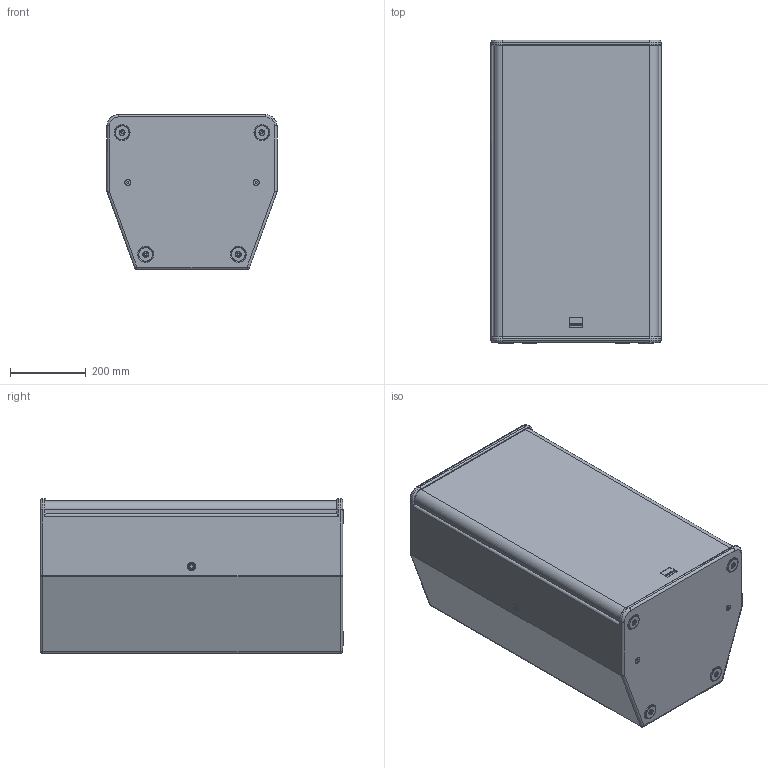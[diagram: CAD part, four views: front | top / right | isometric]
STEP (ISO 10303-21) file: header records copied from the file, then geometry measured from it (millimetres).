
FILE_DESCRIPTION (( 'STEP AP203' ), '1' );
FILE_NAME ('Seeburg_F8.STEP', '2012-10-15T12:45:47', ( 'Fabian' ), ( '' ), 'SwSTEP 2.0', 'SolidWorks 2009', '' );
FILE_SCHEMA (( 'CONFIG_CONTROL_DESIGN' ));
Length unit declared in the file: millimetre
Products named in the file (2): Seeburg_F8; F8
Assembly tree (1 placements, depth 2):
  Seeburg_F8
    F8
Bounding box: 450 x 803 x 410 mm (x, y, z)
Volume: 28137130.1 mm3; surface area: 3148913 mm2
Topology: 24 solids, 24 shells, 566 faces, 1390 edges, 891 vertices
Faces by surface type: cylinder 256, plane 206, cone 48, torus 44, sphere 12
Entity records: 18915 total; most frequent: CARTESIAN_POINT 4905, DIRECTION 3069, ORIENTED_EDGE 2772, EDGE_CURVE 1386, AXIS2_PLACEMENT_3D 1177, VERTEX_POINT 889, VECTOR 715, LINE 715
